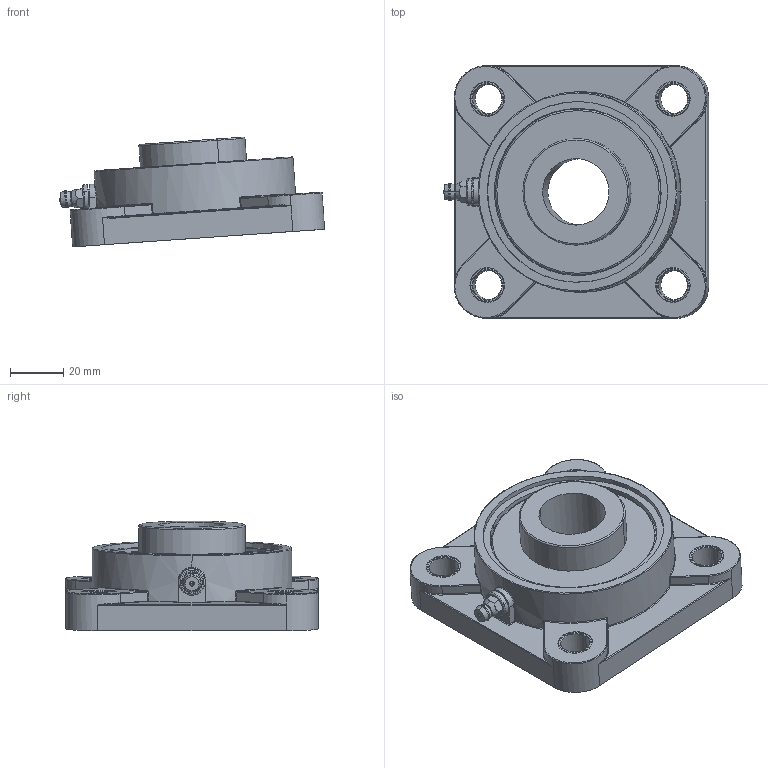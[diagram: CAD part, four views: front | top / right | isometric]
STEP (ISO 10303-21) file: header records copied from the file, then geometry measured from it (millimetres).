
FILE_DESCRIPTION(('CATIA V5 STEP Exchange'),'2;1');
FILE_NAME('X:\CODICI MOVEX\3D per clienti\3D definitivi\Part 800\P81401_01.stp','2016-05-30T06:40:13+00:00',('none'),('none'),'Version 5-6 Release 2012','CATIA V5 STEP AP203','none');
FILE_SCHEMA(('CONFIG_CONTROL_DESIGN'));
Length unit declared in the file: millimetre
Products named in the file (1): P81401_01
Assembly tree (4 placements, depth 2):
  P81401_01
    #58
    #6629
    #7106
    #8247
Bounding box: 99.76 x 95 x 41.28 mm (x, y, z)
Volume: 132169.6 mm3; surface area: 43929.1 mm2
Topology: 8 solids, 8 shells, 273 faces, 648 edges, 367 vertices
Faces by surface type: cylinder 93, plane 50, torus 47, cone 34, sphere 31, bspline 18
Entity records: 8531 total; most frequent: CARTESIAN_POINT 2614, ORIENTED_EDGE 1236, DIRECTION 1033, EDGE_CURVE 618, AXIS2_PLACEMENT_3D 598, VERTEX_POINT 367, CIRCLE 345, EDGE_LOOP 303
